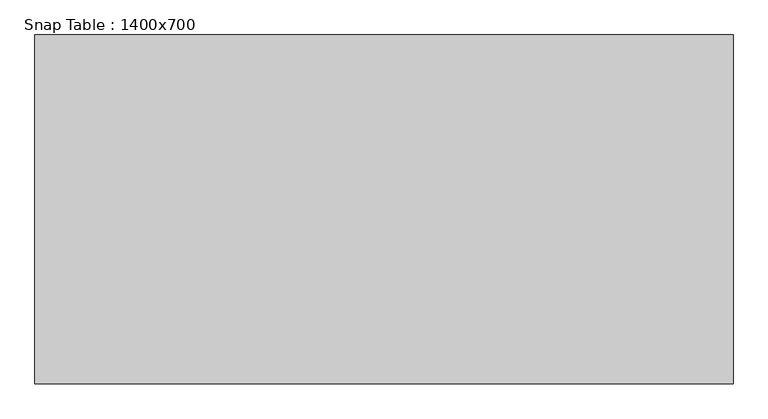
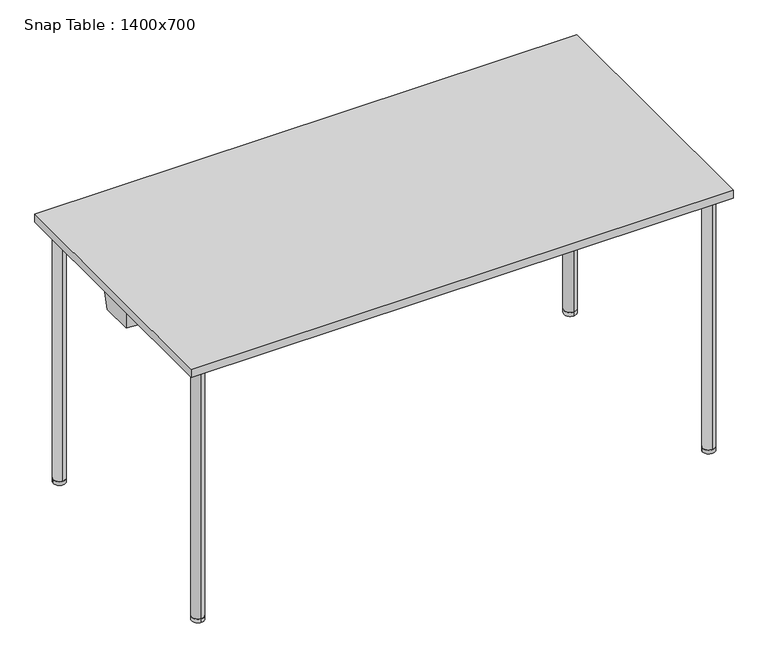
"""IFC4 building model written with IfcOpenShell, lengths in millimetres: furniture geometry, Snap Table : 1400x700."""

from ifc_helpers import new_model, si_unit, point, frame, frame_2d, origin, origin_with_axes, place, context, project, spatial, polyline, circle_curve, ellipse_curve, trimmed, segment, composite_curve, outline, extrude, faceted_brep, source, transform, mapped, element, save
from ifc_brep_helpers import plane_surface, cylinder_surface, revolved_surface, advanced_brep


def snap_table_1400x700_4e4d6a3d(model_context):
    return source(origin(), model_context, "Body", "SolidModel", [
        extrude(outline(composite_curve([segment(trimmed(circle_curve(frame_2d((660.0, -310.0)), 16.0), [point((676.0, -310.0))], [point((644.0, -310.0))], False, "CARTESIAN"), True, "CONTINUOUS"), segment(trimmed(circle_curve(frame_2d((660.0, -310.0)), 16.0), [point((644.0, -310.0))], [point((676.0, -310.0))], False, "CARTESIAN"), True, "CONTINUOUS")], self_intersect=False)), origin_with_axes(), (0.0, 0.0, 1.0), 10.0),
        extrude(outline(composite_curve([segment(trimmed(circle_curve(frame_2d((660.0, 310.0)), 16.0), [point((660.0, 294.0))], [point((660.0, 326.0))], False, "CARTESIAN"), True, "CONTINUOUS"), segment(trimmed(circle_curve(frame_2d((660.0, 310.0)), 16.0), [point((660.0, 326.0))], [point((660.0, 294.0))], False, "CARTESIAN"), True, "CONTINUOUS")], self_intersect=False)), origin_with_axes(), (0.0, 0.0, 1.0), 10.0),
        advanced_brep(
        [(660.0, -326.0, 10.0), (660.0, -294.0, 10.0), (660.0, -326.0, 689.0), (660.0, -294.0, 657.0), (660.0, 326.0, 689.0), (660.0, 294.0, 657.0), (660.0, 326.0, 10.0), (660.0, 294.0, 10.0)],
        [
            (0, 1, circle_curve(frame((660.0, -310.0, 10.0), z_axis=(0.0, 0.0, -1.0), x_axis=(0.0, 1.0, 0.0)), 16.0)),
            (1, 0, circle_curve(frame((660.0, -310.0, 10.0), z_axis=(0.0, 0.0, -1.0), x_axis=(0.0, 1.0, 0.0)), 16.0)),
            (0, 2),
            (2, 3, ellipse_curve(frame((660.0, -310.0, 673.0), z_axis=(0.0, -0.7071067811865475, -0.7071067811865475), x_axis=(0.0, 0.7071067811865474, -0.7071067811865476)), 22.627417, 16.0)),
            (3, 1),
            (3, 2, ellipse_curve(frame((660.0, -310.0, 673.0), z_axis=(0.0, -0.7071067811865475, -0.7071067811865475), x_axis=(0.0, 0.7071067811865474, -0.7071067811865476)), 22.627417, 16.0)),
            (2, 4),
            (4, 5, ellipse_curve(frame((660.0, 310.0, 673.0), z_axis=(0.0, -0.7071067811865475, 0.7071067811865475), x_axis=(0.0, -0.7071067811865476, -0.7071067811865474)), 22.627417, 16.0)),
            (5, 3),
            (5, 4, ellipse_curve(frame((660.0, 310.0, 673.0), z_axis=(0.0, -0.7071067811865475, 0.7071067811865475), x_axis=(0.0, -0.7071067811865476, -0.7071067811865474)), 22.627417, 16.0)),
            (6, 7, circle_curve(frame((660.0, 310.0, 10.0), z_axis=(0.0, 0.0, -1.0), x_axis=(0.0, -1.0, 0.0)), 16.0)),
            (7, 6, circle_curve(frame((660.0, 310.0, 10.0), z_axis=(0.0, 0.0, -1.0), x_axis=(0.0, -1.0, 0.0)), 16.0)),
            (4, 6),
            (7, 5),
        ],
        [
            plane_surface(frame((660.0, -310.0, 10.0), z_axis=(0.0, 0.0, -1.0), x_axis=(-1.0, 0.0, 0.0))),
            cylinder_surface(frame((660.0, -310.0, 10.0), z_axis=(0.0, 0.0, -1.0), x_axis=(0.0, 1.0, 0.0)), 16.0),
            cylinder_surface(frame((660.0, -310.0, 673.0), z_axis=(0.0, -1.0, 0.0), x_axis=(0.0, 0.0, -1.0)), 16.0),
            plane_surface(frame((660.0, 310.0, 10.0), z_axis=(0.0, 0.0, -1.0), x_axis=(-1.0, 0.0, 0.0))),
            cylinder_surface(frame((660.0, 310.0, 673.0), z_axis=(0.0, 0.0, 1.0), x_axis=(0.0, -1.0, 0.0)), 16.0),
        ],
        [
            (0, [[1, 2]]),
            (1, [[-1, 3, 4, 5]]),
            (1, [[-2, -5, 6, -3]]),
            (2, [[-4, 7, 8, 9]]),
            (2, [[-6, -9, 10, -7]]),
            (3, [[11, 12]]),
            (4, [[-8, 13, -12, 14]]),
            (4, [[-10, -14, -11, -13]]),
        ],
    ),
        extrude(outline(composite_curve([segment(trimmed(circle_curve(frame_2d((-660.0470276, 310.0)), 16.0), [point((-676.0470276, 310.0))], [point((-644.0470276, 310.0))], False, "CARTESIAN"), True, "CONTINUOUS"), segment(trimmed(circle_curve(frame_2d((-660.0470276, 310.0)), 16.0), [point((-644.0470276, 310.0))], [point((-676.0470276, 310.0))], False, "CARTESIAN"), True, "CONTINUOUS")], self_intersect=False)), origin_with_axes(), (0.0, 0.0, 1.0), 10.0),
        extrude(outline(composite_curve([segment(trimmed(circle_curve(frame_2d((-660.0470276, -310.0)), 16.0), [point((-660.0470276, -294.0))], [point((-660.0470276, -326.0))], False, "CARTESIAN"), True, "CONTINUOUS"), segment(trimmed(circle_curve(frame_2d((-660.0470276, -310.0)), 16.0), [point((-660.0470276, -326.0))], [point((-660.0470276, -294.0))], False, "CARTESIAN"), True, "CONTINUOUS")], self_intersect=False)), origin_with_axes(), (0.0, 0.0, 1.0), 10.0),
        advanced_brep(
        [(-660.0470276, 326.0, 10.0), (-660.0470276, 294.0, 10.0), (-660.0470276, 326.0, 689.0), (-660.0470276, 294.0, 657.0), (-660.0470276, -326.0, 689.0), (-660.0470276, -294.0, 657.0), (-660.0470276, -326.0, 10.0), (-660.0470276, -294.0, 10.0)],
        [
            (0, 1, circle_curve(frame((-660.0470276, 310.0, 10.0), z_axis=(0.0, 0.0, -1.0), x_axis=(0.0, -1.0, 0.0)), 16.0)),
            (1, 0, circle_curve(frame((-660.0470276, 310.0, 10.0), z_axis=(0.0, 0.0, -1.0), x_axis=(0.0, -1.0, 0.0)), 16.0)),
            (0, 2),
            (2, 3, ellipse_curve(frame((-660.0470276, 310.0, 673.0), z_axis=(0.0, 0.7071067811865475, -0.7071067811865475), x_axis=(0.0, -0.7071067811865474, -0.7071067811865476)), 22.627417, 16.0)),
            (3, 1),
            (3, 2, ellipse_curve(frame((-660.0470276, 310.0, 673.0), z_axis=(0.0, 0.7071067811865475, -0.7071067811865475), x_axis=(0.0, -0.7071067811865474, -0.7071067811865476)), 22.627417, 16.0)),
            (2, 4),
            (4, 5, ellipse_curve(frame((-660.0470276, -310.0, 673.0), z_axis=(0.0, 0.7071067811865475, 0.7071067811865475), x_axis=(0.0, 0.7071067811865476, -0.7071067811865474)), 22.627417, 16.0)),
            (5, 3),
            (5, 4, ellipse_curve(frame((-660.0470276, -310.0, 673.0), z_axis=(0.0, 0.7071067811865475, 0.7071067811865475), x_axis=(0.0, 0.7071067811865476, -0.7071067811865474)), 22.627417, 16.0)),
            (6, 7, circle_curve(frame((-660.0470276, -310.0, 10.0), z_axis=(0.0, 0.0, -1.0), x_axis=(0.0, 1.0, 0.0)), 16.0)),
            (7, 6, circle_curve(frame((-660.0470276, -310.0, 10.0), z_axis=(0.0, 0.0, -1.0), x_axis=(0.0, 1.0, 0.0)), 16.0)),
            (4, 6),
            (7, 5),
        ],
        [
            plane_surface(frame((-660.0470276, 310.0, 10.0), z_axis=(0.0, 0.0, -1.0), x_axis=(1.0, 0.0, 0.0))),
            cylinder_surface(frame((-660.0470276, 310.0, 10.0), z_axis=(0.0, 0.0, -1.0), x_axis=(0.0, -1.0, 0.0)), 16.0),
            cylinder_surface(frame((-660.0470276, 310.0, 673.0), z_axis=(0.0, 1.0, 0.0), x_axis=(0.0, 0.0, -1.0)), 16.0),
            plane_surface(frame((-660.0470276, -310.0, 10.0), z_axis=(0.0, 0.0, -1.0), x_axis=(1.0, 0.0, 0.0))),
            cylinder_surface(frame((-660.0470276, -310.0, 673.0), z_axis=(0.0, 0.0, 1.0), x_axis=(0.0, 1.0, 0.0)), 16.0),
        ],
        [
            (0, [[1, 2]]),
            (1, [[-1, 3, 4, 5]]),
            (1, [[-2, -5, 6, -3]]),
            (2, [[-4, 7, 8, 9]]),
            (2, [[-6, -9, 10, -7]]),
            (3, [[11, 12]]),
            (4, [[-8, 13, -12, 14]]),
            (4, [[-10, -14, -11, -13]]),
        ],
    ),
        extrude(outline(polyline([(700.0, 350.0), (700.0, -350.0), (-700.0, -350.0), (-700.0, 350.0), (700.0, 350.0)])), frame((0.0, 0.0, 698.0), z_axis=(0.0, 0.0, 1.0), x_axis=(1.0, 0.0, 0.0)), (0.0, 0.0, 1.0), 22.0),
        advanced_brep(
        [(-690.8110657, 42.2236058, 643.0), (-657.6910354, 44.5767873, 643.0), (-640.5708933, 36.0824003, 643.0), (640.5710292, 36.0824678, 643.0), (657.6910354, 44.5767873, 643.0), (690.8110657, 42.2236058, 643.0), (690.8110657, -42.2236058, 643.0), (657.6044607, -44.2417031, 643.0), (640.4018781, -36.0497649, 643.0), (-640.4020196, -36.0498323, 643.0), (-657.6044607, -44.2417031, 643.0), (-690.8110657, -42.2236058, 643.0), (-694.8110657, 48.9570516, 698.0), (-694.8110657, -48.9934252, 698.0), (-656.225892, -51.3383995, 698.0), (-634.6205129, -41.049832, 698.0), (634.6203726, -41.0497652, 698.0), (656.225892, -51.3383995, 698.0), (694.8110657, -48.9934252, 698.0), (694.8110657, 48.9570516, 698.0), (656.286594, 51.6942192, 698.0), (634.8989768, 41.0824675, 698.0), (-634.8988421, 41.0824006, 698.0), (-656.286594, 51.6942192, 698.0), (-657.2475737, -46.0789118, 657.2385232), (-676.0, -46.9489596, 673.0), (-656.4614069, -50.125999, 688.6037931), (-644.0, -41.9922101, 673.0), (657.2475737, -46.0789118, 657.2385232), (644.0, -41.9922101, 673.0), (656.4614069, -50.125999, 688.6037931), (676.0, -46.9489596, 673.0), (657.3278029, 46.4175782, 657.2247231), (676.0, 47.1037405, 673.0), (656.5261576, 50.4801582, 688.618336), (644.0, 42.0461233, 673.0), (-657.3278029, 46.4175782, 657.2247231), (-644.0, 42.0461233, 673.0), (-656.5261576, 50.4801582, 688.618336), (-676.0, 47.1037405, 673.0)],
        [
            (0, 1),
            (1, 2),
            (2, 3),
            (3, 4),
            (4, 5),
            (5, 6),
            (6, 7),
            (7, 8),
            (8, 9),
            (9, 10),
            (10, 11),
            (11, 0),
            (12, 13),
            (13, 14),
            (14, 15),
            (15, 16),
            (16, 17),
            (17, 18),
            (18, 19),
            (19, 20),
            (20, 21),
            (21, 22),
            (22, 23),
            (23, 12),
            (11, 13),
            (12, 0),
            (10, 24),
            (24, 25, ellipse_curve(frame((-660.0, -47.9213432, 673.0), z_axis=(0.060176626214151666, 0.9901710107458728, 0.12625427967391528), x_axis=(0.426028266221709, -0.13986196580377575, 0.8938336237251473)), 16.1588249, 16.0)),
            (25, 26, ellipse_curve(frame((-660.0, -47.9213432, 673.0), z_axis=(0.060176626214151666, 0.9901710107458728, 0.12625427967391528), x_axis=(0.426028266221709, -0.13986196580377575, 0.8938336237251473)), 16.1588249, 16.0)),
            (26, 14),
            (9, 15),
            (26, 27, ellipse_curve(frame((-660.0, -49.6114737, 673.0), z_axis=(-0.4265030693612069, 0.8956310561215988, 0.12625427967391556), x_axis=(-0.8587935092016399, -0.44479771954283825, 0.25422174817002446)), 17.8644989, 16.0)),
            (27, 24, ellipse_curve(frame((-660.0, -49.6114737, 673.0), z_axis=(-0.4265030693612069, 0.8956310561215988, 0.12625427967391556), x_axis=(-0.8587935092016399, -0.44479771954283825, 0.25422174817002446)), 17.8644989, 16.0)),
            (8, 16),
            (7, 28),
            (28, 29, ellipse_curve(frame((660.0, -49.6114737, 673.0), z_axis=(0.4265030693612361, 0.8956310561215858, 0.1262542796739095), x_axis=(0.8587935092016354, -0.4447977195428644, 0.25422174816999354)), 17.8644989, 16.0)),
            (29, 30, ellipse_curve(frame((660.0, -49.6114737, 673.0), z_axis=(0.4265030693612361, 0.8956310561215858, 0.1262542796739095), x_axis=(0.8587935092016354, -0.4447977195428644, 0.25422174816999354)), 17.8644989, 16.0)),
            (30, 17),
            (6, 18),
            (30, 31, ellipse_curve(frame((660.0, -47.9213432, 673.0), z_axis=(-0.06017662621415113, 0.9901710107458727, 0.12625427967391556), x_axis=(-0.426028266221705, -0.1398619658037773, 0.8938336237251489)), 16.1588249, 16.0)),
            (31, 28, ellipse_curve(frame((660.0, -47.9213432, 673.0), z_axis=(-0.06017662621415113, 0.9901710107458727, 0.12625427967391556), x_axis=(-0.426028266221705, -0.1398619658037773, 0.8938336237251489)), 16.1588249, 16.0)),
            (5, 19),
            (4, 32),
            (32, 33, ellipse_curve(frame((660.0, 48.2405422, 673.0), z_axis=(-0.0703043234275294, -0.9895034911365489, 0.12625427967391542), x_axis=(0.4813983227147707, -0.14450896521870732, -0.8645072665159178)), 16.1697257, 16.0)),
            (33, 34, ellipse_curve(frame((660.0, 48.2405422, 673.0), z_axis=(-0.0703043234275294, -0.9895034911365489, 0.12625427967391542), x_axis=(0.4813983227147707, -0.14450896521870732, -0.8645072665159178)), 16.1697257, 16.0)),
            (34, 20),
            (3, 21),
            (34, 35, ellipse_curve(frame((660.0, 49.9847369, 673.0), z_axis=(0.4409053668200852, -0.8886294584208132, 0.12625427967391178), x_axis=(-0.854294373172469, -0.45862586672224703, -0.24462918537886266)), 18.005255, 16.0)),
            (35, 32, ellipse_curve(frame((660.0, 49.9847369, 673.0), z_axis=(0.4409053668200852, -0.8886294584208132, 0.12625427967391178), x_axis=(-0.854294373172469, -0.45862586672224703, -0.24462918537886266)), 18.005255, 16.0)),
            (2, 22),
            (1, 36),
            (36, 37, ellipse_curve(frame((-660.0, 49.9847369, 673.0), z_axis=(-0.44090536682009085, -0.8886294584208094, 0.12625427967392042), x_axis=(0.8542943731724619, -0.45862586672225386, -0.24462918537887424)), 18.005255, 16.0)),
            (37, 38, ellipse_curve(frame((-660.0, 49.9847369, 673.0), z_axis=(-0.44090536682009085, -0.8886294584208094, 0.12625427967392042), x_axis=(0.8542943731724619, -0.45862586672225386, -0.24462918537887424)), 18.005255, 16.0)),
            (38, 23),
            (38, 39, ellipse_curve(frame((-660.0, 48.2405422, 673.0), z_axis=(0.07030432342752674, -0.9895034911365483, 0.12625427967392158), x_axis=(-0.48139832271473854, -0.14450896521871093, -0.8645072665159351)), 16.1697257, 16.0)),
            (39, 36, ellipse_curve(frame((-660.0, 48.2405422, 673.0), z_axis=(0.07030432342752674, -0.9895034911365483, 0.12625427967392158), x_axis=(-0.48139832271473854, -0.14450896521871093, -0.8645072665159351)), 16.1697257, 16.0)),
            (35, 29),
            (31, 33),
            (39, 25),
            (27, 37),
        ],
        [
            plane_surface(frame((-5e-07, 0.0612866, 643.0), z_axis=(0.0, 0.0, -1.0), x_axis=(0.0, -1.0, 0.0))),
            plane_surface(frame((-5e-07, 0.0586803, 698.0), z_axis=(0.0, 0.0, 1.0), x_axis=(0.0, -1.0, 0.0))),
            plane_surface(frame((-694.8110657, -0.0181868, 698.0), z_axis=(-0.9973658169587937, 0.0, -0.07253569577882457), x_axis=(0.0, 1.0, 0.0))),
            plane_surface(frame((-675.5184789, -50.1659123, 698.0), z_axis=(-0.060176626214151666, -0.9901710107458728, -0.12625427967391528), x_axis=(-0.9981583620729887, 0.06066204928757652, 0.0))),
            plane_surface(frame((-645.4232025, -46.1941158, 698.0), z_axis=(0.4265030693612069, -0.8956310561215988, -0.12625427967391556), x_axis=(-0.9028557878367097, -0.4299435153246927, 0.0))),
            plane_surface(frame((-7.01e-05, -41.0497986, 698.0), z_axis=(5.2413477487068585e-08, -0.9958932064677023, -0.09053574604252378), x_axis=(-0.9999999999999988, -5.262961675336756e-08, 0.0))),
            plane_surface(frame((645.4231323, -46.1940824, 698.0), z_axis=(-0.4265030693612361, -0.8956310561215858, -0.1262542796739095), x_axis=(-0.9028557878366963, 0.42994351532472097, 0.0))),
            plane_surface(frame((675.5184789, -50.1659123, 698.0), z_axis=(0.060176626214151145, -0.9901710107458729, -0.1262542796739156), x_axis=(-0.9981583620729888, -0.060662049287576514, 0.0))),
            plane_surface(frame((694.8110657, -0.0181868, 698.0), z_axis=(0.997365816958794, 0.0, -0.07253569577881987), x_axis=(0.0, -1.0, 0.0))),
            plane_surface(frame((675.5488298, 50.3256354, 698.0), z_axis=(0.0703043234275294, 0.9895034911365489, -0.12625427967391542), x_axis=(0.9974854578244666, -0.07087144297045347, 0.0))),
            plane_surface(frame((645.5927854, 46.3883433, 698.0), z_axis=(-0.4409053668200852, 0.8886294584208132, -0.12625427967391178), x_axis=(0.8957977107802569, 0.44446199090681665, 0.0))),
            plane_surface(frame((6.73e-05, 41.082434, 698.0), z_axis=(-5.2413477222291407e-08, 0.9958932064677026, -0.09053574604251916), x_axis=(0.9999999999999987, 5.2629615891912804e-08, 0.0))),
            plane_surface(frame((-645.5927181, 46.3883099, 698.0), z_axis=(0.44090536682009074, 0.8886294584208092, -0.1262542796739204), x_axis=(0.8957977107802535, -0.4444619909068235, 0.0))),
            plane_surface(frame((-675.5488298, 50.3256354, 698.0), z_axis=(-0.07030432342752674, 0.9895034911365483, -0.12625427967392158), x_axis=(0.9974854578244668, 0.07087144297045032, 0.0))),
            revolved_surface(polyline([(676.0, -57.55756207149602, 673.0), (676.0, 58.242412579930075, 673.0)]), (660.0, 70.0, 673.0), (0.0, -1.0, 0.0)),
            revolved_surface(polyline([(-676.0, -57.55756207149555, 673.0), (-676.0, 58.242412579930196, 673.0)]), (-660.0, 70.0, 673.0), (0.0, -1.0, 0.0)),
        ],
        [
            (0, [[1, 2, 3, 4, 5, 6, 7, 8, 9, 10, 11, 12]]),
            (1, [[13, 14, 15, 16, 17, 18, 19, 20, 21, 22, 23, 24]]),
            (2, [[-12, 25, -13, 26]]),
            (3, [[-11, 27, 28, 29, 30, -14, -25]]),
            (4, [[-10, 31, -15, -30, 32, 33, -27]]),
            (5, [[-9, 34, -16, -31]]),
            (6, [[-8, 35, 36, 37, 38, -17, -34]]),
            (7, [[-7, 39, -18, -38, 40, 41, -35]]),
            (8, [[-6, 42, -19, -39]]),
            (9, [[-5, 43, 44, 45, 46, -20, -42]]),
            (10, [[-4, 47, -21, -46, 48, 49, -43]]),
            (11, [[-3, 50, -22, -47]]),
            (12, [[-2, 51, 52, 53, 54, -23, -50]]),
            (13, [[-1, -26, -24, -54, 55, 56, -51]]),
            (14, [[57, -36, -41, 58, -44, -49]]),
            (14, [[-57, -48, -45, -58, -40, -37]]),
            (15, [[59, -28, -33, 60, -52, -56]]),
            (15, [[-59, -55, -53, -60, -32, -29]]),
        ],
    ),
        faceted_brep([(630.1271057, 232.1409864, 643.0), (630.1271057, 277.0366315, 643.0), (641.3990784, 277.0366315, 643.0), (641.3990784, 232.1409864, 643.0), (626.2186584, 228.0138349, 688.0), (644.2631531, 228.0138349, 688.0), (644.2631531, 281.163783, 688.0), (626.2186584, 281.163783, 688.0)], [[[0, 1, 2, 3]], [[4, 5, 6, 7]], [[5, 4, 0, 3]], [[6, 5, 3, 2]], [[7, 6, 2, 1]], [[4, 7, 1, 0]]]),
        extrude(outline(polyline([(626.2186584, 281.163783), (677.86026, 281.163783), (677.86026, 228.0138349), (626.2186584, 228.0138349), (626.2186584, 281.163783)])), frame((0.0, 0.0, 688.0), z_axis=(0.0, 0.0, 1.0), x_axis=(1.0, 0.0, 0.0)), (0.0, 0.0, 1.0), 10.0),
        faceted_brep([(630.1271057, -232.1409864, 643.0), (641.3990784, -232.1409864, 643.0), (641.3990784, -277.0366315, 643.0), (630.1271057, -277.0366315, 643.0), (626.2186584, -228.0138349, 688.0), (626.2186584, -281.163783, 688.0), (644.2631531, -281.163783, 688.0), (644.2631531, -228.0138349, 688.0)], [[[0, 1, 2, 3]], [[4, 5, 6, 7]], [[4, 7, 1, 0]], [[7, 6, 2, 1]], [[6, 5, 3, 2]], [[5, 4, 0, 3]]]),
        extrude(outline(polyline([(626.2186584, -281.163783), (626.2186584, -228.0138349), (677.86026, -228.0138349), (677.86026, -281.163783), (626.2186584, -281.163783)])), frame((0.0, 0.0, 688.0), z_axis=(0.0, 0.0, 1.0), x_axis=(1.0, 0.0, 0.0)), (0.0, 0.0, 1.0), 10.0),
        faceted_brep([(-630.1271057, 232.1409864, 643.0), (-641.3990784, 232.1409864, 643.0), (-641.3990784, 277.0366315, 643.0), (-630.1271057, 277.0366315, 643.0), (-626.2186584, 228.0138349, 688.0), (-626.2186584, 281.163783, 688.0), (-644.2631531, 281.163783, 688.0), (-644.2631531, 228.0138349, 688.0)], [[[0, 1, 2, 3]], [[4, 5, 6, 7]], [[4, 7, 1, 0]], [[7, 6, 2, 1]], [[6, 5, 3, 2]], [[5, 4, 0, 3]]]),
        extrude(outline(polyline([(-626.2186584, 281.163783), (-626.2186584, 228.0138349), (-677.86026, 228.0138349), (-677.86026, 281.163783), (-626.2186584, 281.163783)])), frame((0.0, 0.0, 688.0), z_axis=(0.0, 0.0, 1.0), x_axis=(1.0, 0.0, 0.0)), (0.0, 0.0, 1.0), 10.0),
        faceted_brep([(-630.1271057, -232.1409864, 643.0), (-630.1271057, -277.0366315, 643.0), (-641.3990784, -277.0366315, 643.0), (-641.3990784, -232.1409864, 643.0), (-626.2186584, -228.0138349, 688.0), (-644.2631531, -228.0138349, 688.0), (-644.2631531, -281.163783, 688.0), (-626.2186584, -281.163783, 688.0)], [[[0, 1, 2, 3]], [[4, 5, 6, 7]], [[5, 4, 0, 3]], [[6, 5, 3, 2]], [[7, 6, 2, 1]], [[4, 7, 1, 0]]]),
        extrude(outline(polyline([(-626.2186584, -281.163783), (-677.86026, -281.163783), (-677.86026, -228.0138349), (-626.2186584, -228.0138349), (-626.2186584, -281.163783)])), frame((0.0, 0.0, 688.0), z_axis=(0.0, 0.0, 1.0), x_axis=(1.0, 0.0, 0.0)), (0.0, 0.0, 1.0), 10.0),
    ])


if __name__ == "__main__":
    model = new_model("IFC4")
    model_context = context("Model", 3, world=origin())
    ifc_project = project(units=[si_unit("LENGTHUNIT", "METRE", prefix="MILLI")], contexts=[model_context])
    site = spatial("IfcSite", under=ifc_project)
    building = spatial("IfcBuilding", under=site)
    placement = place(None, origin())
    snap_table_1400x700_shape = snap_table_1400x700_4e4d6a3d(model_context)
    element("IfcFurniture", 1, ObjectType="Snap Table : 1400x700", at=placement, inside=building, context=model_context, shape_type="MappedRepresentation", body=[
        mapped(snap_table_1400x700_shape, transform((0.0, 0.0, 0.0), x_axis=(1.0, 0.0, 0.0), y_axis=(0.0, 1.0, 0.0), z_axis=(0.0, 0.0, 1.0))),
    ])
    save(model, "model.ifc")
